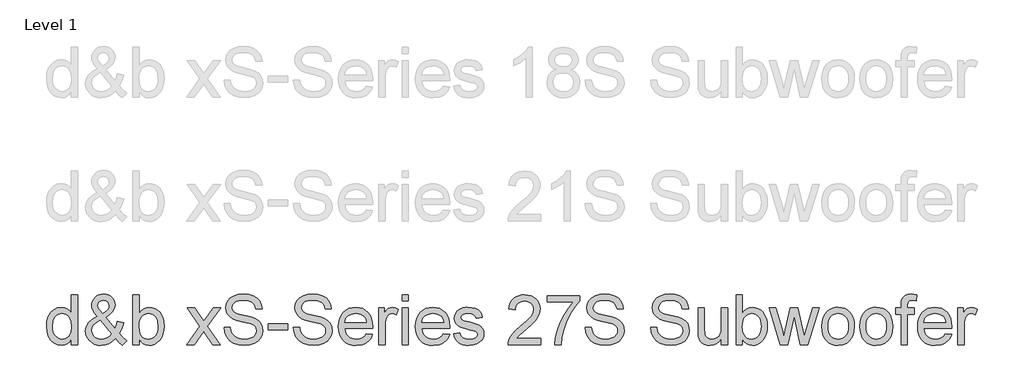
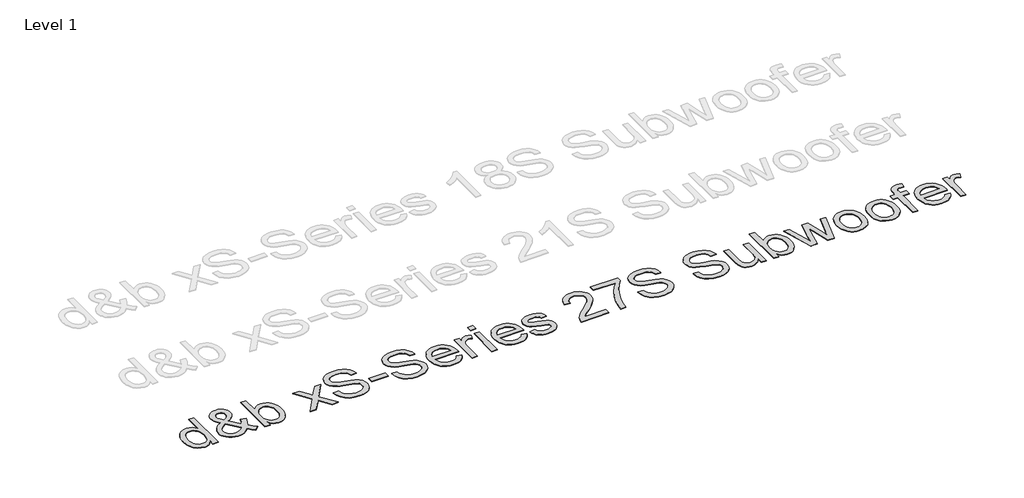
# One storey, part 18 of 55: 1 proxy.
"""IFC4 building model written with IfcOpenShell, lengths in millimetres."""

import ifcopenshell
import ifcopenshell.guid

model = None  # the IFC model being written
_history = None  # IfcOwnerHistory: only IFC2X3 demands one
_inside = {}  # id of a spatial element -> (the spatial element, [elements in it])
_under = {}  # id of a project, library or spatial element -> (it, [spatial elements below it])
_declared = {}  # id of a project -> (the project, [libraries it declares])
_typed = {}  # id of a type object -> (the type object, [elements of that type])
_made_of = {}  # id of a material, layer set ... -> (it, [elements and type objects made of it])


def new_model(schema):
    """Start an empty IFC model of exactly this schema.

    Asked for "IFC4X3", IfcOpenShell would pick the latest addendum, in which some entities
    have other attributes; the version numbers below select the first issue.
    IFC2X3 requires an IfcOwnerHistory on every rooted entity: one is made here for all.
    """
    global model, _history
    if schema == "IFC4X3":
        model = ifcopenshell.file(schema_version=(4, 3, 0, 0))
    else:
        model = ifcopenshell.file(schema=schema)
    _inside.clear()
    _under.clear()
    _declared.clear()
    _typed.clear()
    _made_of.clear()
    _history = None
    if model.schema == "IFC2X3":
        org = make("IfcOrganization", Name="unknown")
        user = make(
            "IfcPersonAndOrganization",
            ThePerson=make("IfcPerson", FamilyName="unknown"),
            TheOrganization=org,
        )
        app = make(
            "IfcApplication",
            ApplicationDeveloper=org,
            Version="unknown",
            ApplicationFullName="unknown",
            ApplicationIdentifier="unknown",
        )
        _history = make(
            "IfcOwnerHistory",
            OwningUser=user,
            OwningApplication=app,
            ChangeAction="ADDED",
            CreationDate=0,
        )
    return model


def make(cls, **values):
    """One entity of the class cls with the attributes given. An attribute that is None is left unset."""
    return model.create_entity(
        cls, **{name: value for name, value in values.items() if value is not None}
    )


def rooted(cls, **values):
    """An entity with a GlobalId (a new one), such as an element, a storey or a relation."""
    return make(cls, GlobalId=ifcopenshell.guid.new(), OwnerHistory=_history, **values)


def si_unit(unit_type, name, prefix=None):
    """IfcSIUnit, for example si_unit("LENGTHUNIT", "METRE", prefix="MILLI")."""
    return make("IfcSIUnit", UnitType=unit_type, Prefix=prefix, Name=name)


def assignment(units):
    """IfcUnitAssignment: the units of a project."""
    return None if units is None else make("IfcUnitAssignment", Units=units)


def point(xyz):
    """IfcCartesianPoint."""
    return None if xyz is None else make("IfcCartesianPoint", Coordinates=xyz)


def direction(xyz):
    """IfcDirection."""
    return None if xyz is None else make("IfcDirection", DirectionRatios=xyz)


def frame(location, z_axis=None, x_axis=None):
    """IfcAxis2Placement3D, a coordinate frame: its origin and axes. An axis left out is left unset."""
    return make(
        "IfcAxis2Placement3D",
        Location=point(location),
        Axis=direction(z_axis),
        RefDirection=direction(x_axis),
    )


def origin():
    """The frame at (0, 0, 0) with its axes left unset."""
    return frame((0.0, 0.0, 0.0))


def origin_with_axes():
    """The frame at (0, 0, 0) with the z axis (0, 0, 1) and the x axis (1, 0, 0) written out."""
    return frame((0.0, 0.0, 0.0), z_axis=(0.0, 0.0, 1.0), x_axis=(1.0, 0.0, 0.0))


def place(relative_to, where):
    """IfcLocalPlacement: puts the frame where relative to a parent placement (None: the world)."""
    return make(
        "IfcLocalPlacement", PlacementRelTo=relative_to, RelativePlacement=where
    )


def context(
    kind, dimensions, precision=None, world=None, true_north=None, identifier=None
):
    """IfcGeometricRepresentationContext, for example the 3D "Model" context."""
    return make(
        "IfcGeometricRepresentationContext",
        ContextIdentifier=identifier,
        ContextType=kind,
        CoordinateSpaceDimension=dimensions,
        Precision=precision,
        WorldCoordinateSystem=world,
        TrueNorth=true_north,
    )


def project(units=None, contexts=None):
    """IfcProject with its units and contexts."""
    return rooted(
        "IfcProject",
        Name="project",
        RepresentationContexts=contexts,
        UnitsInContext=assignment(units),
    )


def spatial(cls, under=None, at=None, **own):
    """A site, building, storey or space (cls), placed at a placement, below another one or the project."""
    s = rooted(cls, ObjectPlacement=at, **own)
    if under is not None:
        _under.setdefault(under.id(), (under, []))[1].append(s)
    return s


def polyline(points):
    """IfcPolyline through the points."""
    return make("IfcPolyline", Points=[point(p) for p in points])


def outline(outer, holes=None, kind="AREA"):
    """IfcArbitraryClosedProfileDef: a profile drawn as a closed curve; with holes, ...WithVoids."""
    if holes is None:
        return make("IfcArbitraryClosedProfileDef", ProfileType=kind, OuterCurve=outer)
    return make(
        "IfcArbitraryProfileDefWithVoids",
        ProfileType=kind,
        OuterCurve=outer,
        InnerCurves=holes,
    )


def extrude(swept, where, along, depth):
    """IfcExtrudedAreaSolid: the profile swept, set in the frame where, extruded along a direction by depth."""
    return make(
        "IfcExtrudedAreaSolid",
        SweptArea=swept,
        Position=where,
        ExtrudedDirection=direction(along),
        Depth=depth,
    )


def shape(context_of_items, identifier, shape_type, items):
    """IfcShapeRepresentation: the items that make up one representation, for example the "Body"."""
    return make(
        "IfcShapeRepresentation",
        ContextOfItems=context_of_items,
        RepresentationIdentifier=identifier,
        RepresentationType=shape_type,
        Items=items,
    )


def made_of(thing, what):
    """Note that an element or type object is made of a material, layer set ...; save() writes the relation."""
    if what is not None:
        _made_of.setdefault(what.id(), (what, []))[1].append(thing)
    return thing


def element(
    cls,
    number,
    at=None,
    inside=None,
    cuts=None,
    type_object=None,
    material=None,
    context=None,
    identifier="Body",
    shape_type=None,
    held_by="IfcProductDefinitionShape",
    body=None,
    shapes=None,
    **own,
):
    """One element of the class cls, such as IfcWall. Its Tag is "e" and its number.

    at: its placement. inside: the storey or other place that contains it. cuts: it is an
    opening in that element (IfcRelVoidsElement). A single representation is given by context,
    identifier, shape_type and body (its items); several are given by shapes. held_by: the class
    of the entity that holds the representations. save() writes the other relations.
    """
    e = rooted(cls, Tag="e%d" % number, ObjectPlacement=at, **own)
    if body is not None:
        shapes = [shape(context, identifier, shape_type, body)]
    if shapes is not None:
        e.Representation = make(held_by, Representations=shapes)
    if inside is not None:
        _inside.setdefault(inside.id(), (inside, []))[1].append(e)
    if cuts is not None:
        rooted(
            "IfcRelVoidsElement", RelatingBuildingElement=cuts, RelatedOpeningElement=e
        )
    if type_object is not None:
        _typed.setdefault(type_object.id(), (type_object, []))[1].append(e)
    return made_of(e, material)


def aggregate(whole, parts):
    """IfcRelAggregates: a whole, such as a stair, and the parts it consists of."""
    return rooted("IfcRelAggregates", RelatingObject=whole, RelatedObjects=parts)


def save(model, path):
    """Write the relations noted so far, then the file.

    IfcRelAggregates (storeys below a building ...), IfcRelContainedInSpatialStructure (elements
    in a storey), IfcRelDefinesByType, IfcRelAssociatesMaterial and IfcRelDeclares: one each for
    every whole, place, type object, material and project.
    """
    for whole, parts in _under.values():
        aggregate(whole, parts)
    for where, things in _inside.values():
        rooted(
            "IfcRelContainedInSpatialStructure",
            RelatedElements=things,
            RelatingStructure=where,
        )
    for kind, things in _typed.values():
        rooted("IfcRelDefinesByType", RelatedObjects=things, RelatingType=kind)
    for what, things in _made_of.values():
        rooted("IfcRelAssociatesMaterial", RelatedObjects=things, RelatingMaterial=what)
    for by, libraries in _declared.values():
        rooted("IfcRelDeclares", RelatingContext=by, RelatedDefinitions=libraries)
    model.write(path)


model = new_model("IFC4")

# Units and contexts
model_context = context("Model", 3, world=origin())
ifc_project = project(units=[si_unit("LENGTHUNIT", "METRE", prefix="MILLI")], contexts=[model_context])

# Site, building, storey
site = spatial("IfcSite", under=ifc_project)
building = spatial("IfcBuilding", under=site)
storey = spatial("IfcBuildingStorey", under=building, Name="Level 1", Elevation=0.0)

# Proxy
placement = place(None, origin())
element("IfcBuildingElementProxy", 1, Name="400mm Arial", ObjectType="400mm Arial", at=placement, inside=storey, context=model_context, shape_type="SweptSolid", body=[
    extrude(outline(polyline([(-20879.8211974, -17148.6945164), (-20879.8211974, -17101.3113154), (-20894.8491769, -17124.7883181), (-20913.0532043, -17141.5576057), (-20934.4332796, -17151.6191783), (-20958.9894028, -17154.9730358), (-20991.4611202, -17150.1169935), (-21021.1859854, -17135.5488665), (-21046.3491139, -17112.2864616), (-21065.1356211, -17081.3475858), (-21076.8342686, -17043.9830379), (-21080.7338177, -17001.4436165), (-21077.1408369, -16959.4314926), (-21066.3618945, -16921.4905962), (-21048.4092531, -16889.7791682), (-21023.2951755, -16866.4554497), (-20992.9203855, -16852.1080519), (-20959.1856065, -16847.325586), (-20934.6110892, -16850.7468885), (-20912.8815261, -16861.0107962), (-20894.4629008, -16876.7438829), (-20879.8211974, -16896.5727224), (-20879.8211974, -16746.8692758), (-20829.5930424, -16746.8692758), (-20829.5930424, -17148.6945164), (-20879.8211974, -17148.6945164)]), holes=[polyline([(-21030.5056627, -17001.2474128), (-21029.089317, -17025.6042665), (-21024.8402799, -17046.6808392), (-21017.7585515, -17064.4771307), (-21007.8441318, -17078.9931411), (-20983.1469871, -17098.3069458), (-20969.2717046, -17103.135397), (-20954.3786151, -17104.7448807), (-20939.415015, -17103.2089734), (-20925.6225058, -17098.6012514), (-20901.5507606, -17080.1703635), (-20892.0440767, -17066.2613584), (-20885.2535882, -17049.1088603), (-20879.8211974, -17005.0733855), (-20885.3516901, -16956.9298951), (-20892.2648059, -16938.3947739), (-20901.9431681, -16923.5507354), (-20913.6448812, -16912.1770504), (-20926.6280499, -16904.0529896), (-20940.8926743, -16899.1785532), (-20956.4387543, -16897.5537411), (-20971.6261493, -16899.1141738), (-20985.5014319, -16903.7954722), (-20998.064602, -16911.5976362), (-21009.3156597, -16922.5206658), (-21018.586286, -16936.8036843), (-21025.2081619, -16954.6858149), (-21030.5056627, -17001.2474128)])]), origin_with_axes(), (0.0, 0.0, 1.0), 5.0),
    extrude(outline(polyline([(-20523.809528, -17099.0549725), (-20549.3405384, -17123.5191252), (-20577.0788409, -17140.99352), (-20607.0734862, -17151.4781569), (-20639.3735254, -17154.9730358), (-20668.6814577, -17152.3855991), (-20694.8010793, -17144.623289), (-20717.7323904, -17131.6861055), (-20737.4753908, -17113.5740486), (-20750.308341, -17096.2038871), (-20759.4747341, -17077.8404442), (-20764.9745699, -17058.4837198), (-20766.8078485, -17038.1337141), (-20760.9094739, -17002.9396699), (-20743.2143499, -16971.3263438), (-20713.796053, -16943.3182613), (-20672.7281596, -16918.9399477), (-20694.6416638, -16890.5885086), (-20707.7995765, -16868.1231814), (-20714.3846642, -16848.9442668), (-20716.5796934, -16830.4520651), (-20714.8506481, -16812.8979626), (-20709.6635119, -16796.5333452), (-20701.018285, -16781.3582129), (-20688.9149674, -16767.3725657), (-20674.1935562, -16755.6555241), (-20657.6940487, -16747.2862088), (-20639.4164449, -16742.2646195), (-20619.3607448, -16740.5907564), (-20600.212487, -16742.1910431), (-20582.8913764, -16746.9919032), (-20567.397413, -16754.9933366), (-20553.7305969, -16766.1953433), (-20542.5715097, -16779.6414302), (-20534.6007332, -16794.3751041), (-20529.8182672, -16810.396365), (-20528.2241119, -16827.7052129), (-20532.9452642, -16855.68877), (-20547.108721, -16881.563137), (-20570.7144823, -16905.3283139), (-20603.7625482, -16926.9843007), (-20531.069066, -17017.5323224), (-20518.6837055, -16991.6579554), (-20509.3885538, -16961.9085647), (-20459.1603987, -16972.7978718), (-20474.6114425, -17019.3226815), (-20494.6732739, -17055.4977443), (-20466.1256311, -17088.8033276), (-20434.0463211, -17116.3209009), (-20471.7174374, -17154.9730358), (-20497.3465498, -17131.52669), (-20523.809528, -17099.0549725)]), holes=[polyline([(-20557.4584678, -17062.8553842), (-20647.1235727, -16950.9211558), (-20681.3733865, -16972.7733463), (-20702.305872, -16993.0068561), (-20713.0112381, -17012.3329235), (-20716.5796934, -17031.4627873), (-20711.6991256, -17055.1543878), (-20697.0574222, -17079.7289051), (-20686.2784798, -17090.6733944), (-20673.4639236, -17098.4908868), (-20658.6137537, -17103.1813823), (-20641.7279702, -17104.7448807), (-20619.0051256, -17101.8263502), (-20595.5710425, -17093.0707588), (-20574.1480476, -17079.6798541), (-20557.4584678, -17062.8553842)]), polyline([(-20629.1709314, -16895.2973981), (-20602.9041569, -16878.6323438), (-20587.8700461, -16864.1500559), (-20580.8067117, -16850.0601755), (-20578.452267, -16834.5723435), (-20581.5547385, -16817.0243723), (-20590.862153, -16803.0325938), (-20604.829406, -16793.8723321), (-20621.9113933, -16790.8189115), (-20639.3612626, -16793.8478066), (-20653.6473468, -16802.9344919), (-20663.1754905, -16816.3867102), (-20666.3515384, -16832.5122043), (-20662.0350563, -16850.9063041), (-20648.9875082, -16871.360543), (-20629.1709314, -16895.2973981)])]), origin_with_axes(), (0.0, 0.0, 1.0), 5.0),
    extrude(outline(polyline([(-20333.590011, -17148.6945164), (-20383.8181661, -17148.6945164), (-20383.8181661, -16746.8692758), (-20333.590011, -16746.8692758), (-20333.590011, -16895.8860093), (-20317.0721094, -16874.6408241), (-20298.4204923, -16859.4656918), (-20277.6351595, -16850.3606124), (-20254.7161112, -16847.325586), (-20228.8417442, -16850.0601755), (-20204.3898543, -16858.263944), (-20182.758393, -16871.4218567), (-20165.3453119, -16889.0188788), (-20151.6968898, -16910.883332), (-20141.3594058, -16936.8435381), (-20134.8478945, -16965.8203766), (-20132.6773907, -16996.734727), (-20134.9245365, -17032.4070178), (-20141.6659741, -17063.7873519), (-20152.9017034, -17090.8757295), (-20168.6317244, -17113.6721505), (-20187.5132678, -17131.7412878), (-20208.2035643, -17144.6478145), (-20230.702614, -17152.3917305), (-20255.0104168, -17154.9730358), (-20278.6836232, -17151.6437038), (-20299.671291, -17141.6557076), (-20317.9734203, -17125.0090473), (-20333.590011, -17101.7037229), (-20333.590011, -17148.6945164)]), holes=[polyline([(-20333.590011, -16999.0891717), (-20330.1564457, -17040.9786682), (-20319.8557498, -17069.3301073), (-20307.6849872, -17084.8240707), (-20293.5399244, -17095.8911874), (-20277.4205617, -17102.5314574), (-20259.3268989, -17104.7448807), (-20244.3050508, -17103.1139372), (-20230.3377977, -17098.2211067), (-20217.4251396, -17090.0663891), (-20205.5670767, -17078.6497845), (-20195.6526569, -17064.0019498), (-20188.5709285, -17046.1535416), (-20184.3218914, -17025.1045601), (-20182.9055458, -17000.8550053), (-20188.3379366, -16954.8942814), (-20195.1284251, -16937.1010555), (-20204.6351089, -16922.7659205), (-20216.0670419, -16911.735592), (-20228.6332778, -16903.8567859), (-20242.3338164, -16899.1295023), (-20257.1686579, -16897.5537411), (-20272.190506, -16899.1846846), (-20286.1577591, -16904.0775151), (-20299.0704171, -16912.2322327), (-20310.9284801, -16923.6488372), (-20320.8428999, -16938.1495192), (-20327.9246283, -16955.556469), (-20332.1736653, -16975.8696865), (-20333.590011, -16999.0891717)])]), origin_with_axes(), (0.0, 0.0, 1.0), 5.0),
    extrude(outline(polyline([(-19950.6003285, -17148.6945164), (-19843.2768878, -17000.2663941), (-19944.3218092, -16853.6041054), (-19884.0872638, -16853.6041054), (-19835.3306367, -16924.3355503), (-19812.4729021, -16957.5920827), (-19792.6563253, -16930.3197641), (-19737.1306695, -16853.6041054), (-19676.6999204, -16853.6041054), (-19782.8461387, -17000.364496), (-19680.623995, -17148.6945164), (-19740.9566422, -17148.6945164), (-19802.5646137, -17059.4218189), (-19813.7482263, -17043.0388074), (-19890.1695795, -17148.6945164), (-19950.6003285, -17148.6945164)])), origin_with_axes(), (0.0, 0.0, 1.0), 5.0),
    extrude(outline(polyline([(-19649.2313981, -17010.56709), (-19599.003243, -17010.56709), (-19593.2397584, -17038.4402825), (-19582.8164352, -17060.844296), (-19566.556051, -17078.6252591), (-19543.2813835, -17092.6293004), (-19514.8318425, -17101.7159856), (-19483.0468381, -17104.7448807), (-19455.063281, -17102.4517496), (-19430.5623402, -17095.5723563), (-19410.7089752, -17084.6830493), (-19396.6681457, -17070.3601769), (-19388.3172244, -17053.9158517), (-19385.533584, -17036.6621862), (-19387.6182486, -17019.849979), (-19393.8722425, -17005.3186402), (-19406.5764341, -16992.9210169), (-19428.0116917, -16982.5099565), (-19501.1466323, -16963.3310418), (-19549.1552327, -16950.639113), (-19579.8733793, -16938.5603208), (-19604.8770922, -16921.6622745), (-19622.5967416, -16901.1835101), (-19633.1549549, -16877.565486), (-19636.6743593, -16851.2496606), (-19632.3210891, -16821.8313637), (-19619.2612782, -16794.3996296), (-19597.8382834, -16771.1494875), (-19568.395461, -16754.2759667), (-19533.054264, -16744.012059), (-19493.9361452, -16740.5907564), (-19451.5561394, -16744.1714745), (-19414.4736342, -16754.9136288), (-19384.013005, -16772.59649), (-19361.4986269, -16796.999329), (-19347.249331, -16826.6015669), (-19341.5839483, -16859.8826247), (-19391.8121033, -16859.8826247), (-19401.0336787, -16829.9125049), (-19409.3968627, -16818.0544419), (-19420.2616443, -16808.2810436), (-19450.3053406, -16795.1844445), (-19491.9741079, -16790.8189115), (-19534.6238939, -16795.1353936), (-19550.9271976, -16800.5309962), (-19563.8827752, -16808.0848398), (-19580.805347, -16827.1411272), (-19586.4462043, -16849.7781326), (-19582.4485532, -16869.0796746), (-19570.4556002, -16884.6042948), (-19542.1041611, -16898.4857088), (-19488.4424407, -16912.6614283), (-19433.0639377, -16926.1259093), (-19399.5621507, -16937.8736077), (-19370.9286687, -16956.0960292), (-19350.9526764, -16978.5858819), (-19339.2172408, -17005.097911), (-19335.3054289, -17035.3868619), (-19339.805852, -17066.3502632), (-19353.3071212, -17095.4742545), (-19375.2574136, -17120.5392811), (-19405.1049061, -17139.3257883), (-19440.9979261, -17151.0612239), (-19481.0848008, -17154.9730358), (-19530.2951491, -17150.7546556), (-19570.7989567, -17138.099515), (-19603.0622077, -17116.958563), (-19627.5508858, -17087.2827487), (-19643.2717098, -17051.1322113), (-19649.2313981, -17010.56709)])), origin_with_axes(), (0.0, 0.0, 1.0), 5.0),
    extrude(outline(polyline([(-19291.3557932, -17029.4026481), (-19291.3557932, -16979.174493), (-19134.3928086, -16979.174493), (-19134.3928086, -17029.4026481), (-19291.3557932, -17029.4026481)])), origin_with_axes(), (0.0, 0.0, 1.0), 5.0),
    extrude(outline(polyline([(-19090.4431729, -17010.56709), (-19040.2150178, -17010.56709), (-19034.4515332, -17038.4402825), (-19024.02821, -17060.844296), (-19007.7678258, -17078.6252591), (-18984.4931583, -17092.6293004), (-18956.0436173, -17101.7159856), (-18924.2586129, -17104.7448807), (-18896.2750558, -17102.4517496), (-18871.774115, -17095.5723563), (-18851.9207499, -17084.6830493), (-18837.8799205, -17070.3601769), (-18829.5289992, -17053.9158517), (-18826.7453587, -17036.6621862), (-18828.8300234, -17019.849979), (-18835.0840173, -17005.3186402), (-18847.7882089, -16992.9210169), (-18869.2234665, -16982.5099565), (-18942.3584071, -16963.3310418), (-18990.3670075, -16950.639113), (-19021.0851541, -16938.5603208), (-19046.088867, -16921.6622745), (-19063.8085164, -16901.1835101), (-19074.3667297, -16877.565486), (-19077.8861341, -16851.2496606), (-19073.5328638, -16821.8313637), (-19060.473053, -16794.3996296), (-19039.0500582, -16771.1494875), (-19009.6072358, -16754.2759667), (-18974.2660388, -16744.012059), (-18935.14792, -16740.5907564), (-18892.7679141, -16744.1714745), (-18855.685409, -16754.9136288), (-18825.2247798, -16772.59649), (-18802.7104017, -16796.999329), (-18788.4611058, -16826.6015669), (-18782.7957231, -16859.8826247), (-18833.0238781, -16859.8826247), (-18842.2454535, -16829.9125049), (-18850.6086375, -16818.0544419), (-18861.4734191, -16808.2810436), (-18891.5171154, -16795.1844445), (-18933.1858827, -16790.8189115), (-18975.8356687, -16795.1353936), (-18992.1389724, -16800.5309962), (-19005.09455, -16808.0848398), (-19022.0171218, -16827.1411272), (-19027.657979, -16849.7781326), (-19023.660328, -16869.0796746), (-19011.667375, -16884.6042948), (-18983.3159359, -16898.4857088), (-18929.6542155, -16912.6614283), (-18874.2757125, -16926.1259093), (-18840.7739255, -16937.8736077), (-18812.1404435, -16956.0960292), (-18792.1644512, -16978.5858819), (-18780.4290156, -17005.097911), (-18776.5172037, -17035.3868619), (-18781.0176267, -17066.3502632), (-18794.518896, -17095.4742545), (-18816.4691883, -17120.5392811), (-18846.3166809, -17139.3257883), (-18882.2097009, -17151.0612239), (-18922.2965756, -17154.9730358), (-18971.5069238, -17150.7546556), (-19012.0107315, -17138.099515), (-19044.2739825, -17116.958563), (-19068.7626606, -17087.2827487), (-19084.4834846, -17051.1322113), (-19090.4431729, -17010.56709)])), origin_with_axes(), (0.0, 0.0, 1.0), 5.0),
    extrude(outline(polyline([(-18500.850962, -17060.795245), (-18451.6038255, -17067.0737644), (-18459.1546035, -17086.7983707), (-18469.3480004, -17104.180795), (-18482.1840164, -17119.2210372), (-18497.6626513, -17131.9190974), (-18515.6244897, -17142.0051955), (-18535.9101161, -17149.2095512), (-18583.4527326, -17154.9730358), (-18614.618469, -17152.4867667), (-18642.3874282, -17145.0279592), (-18666.7596104, -17132.5966135), (-18687.7350155, -17115.1927294), (-18704.602405, -17093.300685), (-18716.6505403, -17067.4048582), (-18723.8794215, -17037.5052491), (-18726.2890486, -17003.6018575), (-18723.8548961, -16968.5488348), (-18716.5524385, -16937.6528785), (-18704.3816758, -16910.9139888), (-18687.342608, -16888.3321657), (-18666.4223852, -16870.3917871), (-18642.6081574, -16857.5772309), (-18615.8999246, -16849.8884972), (-18586.2976867, -16847.325586), (-18557.6488763, -16849.8823658), (-18531.7407868, -16857.5527054), (-18508.5734182, -16870.3366048), (-18488.1467704, -16888.2340638), (-18471.472519, -16910.766836), (-18459.5623394, -16937.4566748), (-18452.4162316, -16968.3035801), (-18450.0341957, -17003.3075519), (-18450.3285013, -17016.8456094), (-18676.0608935, -17016.8456094), (-18673.1515601, -17036.8890467), (-18667.3666157, -17054.4431493), (-18658.7060604, -17069.507917), (-18647.1698942, -17082.0833498), (-18633.3957791, -17091.9977696), (-18618.0213774, -17099.079498), (-18582.4717139, -17104.7448807), (-18555.7389556, -17102.1206558), (-18533.2245775, -17094.2479811), (-18514.9285796, -17080.6363473), (-18500.850962, -17060.795245)]), holes=[polyline([(-18676.0608935, -16966.6174543), (-18500.2623508, -16966.6174543), (-18507.0559049, -16940.0808997), (-18520.3732332, -16921.0981887), (-18534.0707061, -16910.7974929), (-18549.65664, -16903.439853), (-18567.1310348, -16899.025269), (-18586.4938904, -16897.5537411), (-18620.3512967, -16902.2503679), (-18648.3471166, -16916.3402483), (-18667.8080741, -16938.3028034), (-18676.0608935, -16966.6174543)])]), origin_with_axes(), (0.0, 0.0, 1.0), 5.0),
    extrude(outline(polyline([(-18399.8060406, -17148.6945164), (-18399.8060406, -16853.6041054), (-18355.8564049, -16853.6041054), (-18355.8564049, -16897.2594355), (-18339.6205462, -16871.9491542), (-18324.6600117, -16857.0376707), (-18309.6504263, -16849.7536071), (-18293.2674148, -16847.325586), (-18268.2514391, -16851.2006097), (-18242.843056, -16862.8256807), (-18259.618475, -16907.8544369), (-18277.2768108, -16900.128915), (-18294.9351465, -16897.5537411), (-18309.9324692, -16900.0308132), (-18323.3356365, -16907.4620295), (-18334.1636299, -16919.2833042), (-18341.4354307, -16934.9305518), (-18347.5422718, -16962.9876853), (-18349.5778855, -16993.5954673), (-18349.5778855, -17148.6945164), (-18399.8060406, -17148.6945164)])), origin_with_axes(), (0.0, 0.0, 1.0), 5.0),
    extrude(outline(polyline([(-18211.4504591, -16797.0974309), (-18211.4504591, -16746.8692758), (-18161.222304, -16746.8692758), (-18161.222304, -16797.0974309), (-18211.4504591, -16797.0974309)])), origin_with_axes(), (0.0, 0.0, 1.0), 5.0),
    extrude(outline(polyline([(-18211.4504591, -17148.6945164), (-18211.4504591, -16853.6041054), (-18161.222304, -16853.6041054), (-18161.222304, -17148.6945164), (-18211.4504591, -17148.6945164)])), origin_with_axes(), (0.0, 0.0, 1.0), 5.0),
    extrude(outline(polyline([(-17879.2775429, -17060.795245), (-17830.0304065, -17067.0737644), (-17837.5811844, -17086.7983707), (-17847.7745814, -17104.180795), (-17860.6105973, -17119.2210372), (-17876.0892323, -17131.9190974), (-17894.0510707, -17142.0051955), (-17914.336697, -17149.2095512), (-17961.8793136, -17154.9730358), (-17993.0450499, -17152.4867667), (-18020.8140092, -17145.0279592), (-18045.1861914, -17132.5966135), (-18066.1615965, -17115.1927294), (-18083.0289859, -17093.300685), (-18095.0771213, -17067.4048582), (-18102.3060025, -17037.5052491), (-18104.7156295, -17003.6018575), (-18102.281477, -16968.5488348), (-18094.9790194, -16937.6528785), (-18082.8082567, -16910.9139888), (-18065.769189, -16888.3321657), (-18044.8489662, -16870.3917871), (-18021.0347384, -16857.5772309), (-17994.3265055, -16849.8884972), (-17964.7242676, -16847.325586), (-17936.0754573, -16849.8823658), (-17910.1673678, -16857.5527054), (-17886.9999991, -16870.3366048), (-17866.5733513, -16888.2340638), (-17849.8990999, -16910.766836), (-17837.9889203, -16937.4566748), (-17830.8428126, -16968.3035801), (-17828.4607766, -17003.3075519), (-17828.7550822, -17016.8456094), (-18054.4874745, -17016.8456094), (-18051.578141, -17036.8890467), (-18045.7931967, -17054.4431493), (-18037.1326413, -17069.507917), (-18025.5964751, -17082.0833498), (-18011.8223601, -17091.9977696), (-17996.4479584, -17099.079498), (-17960.8982949, -17104.7448807), (-17934.1655366, -17102.1206558), (-17911.6511585, -17094.2479811), (-17893.3551606, -17080.6363473), (-17879.2775429, -17060.795245)]), holes=[polyline([(-18054.4874745, -16966.6174543), (-17878.6889317, -16966.6174543), (-17885.4824859, -16940.0808997), (-17898.7998141, -16921.0981887), (-17912.4972871, -16910.7974929), (-17928.0832209, -16903.439853), (-17945.5576157, -16899.025269), (-17964.9204714, -16897.5537411), (-17998.7778777, -16902.2503679), (-18026.7736975, -16916.3402483), (-18046.234655, -16938.3028034), (-18054.4874745, -16966.6174543)])]), origin_with_axes(), (0.0, 0.0, 1.0), 5.0),
    extrude(outline(polyline([(-17797.0681797, -17060.795245), (-17746.8400246, -17054.5167257), (-17738.918299, -17076.0010342), (-17723.5898825, -17091.7954345), (-17700.7566734, -17101.5075192), (-17670.3205696, -17104.7448807), (-17640.2523479, -17101.7772993), (-17619.1113959, -17092.874555), (-17606.6034081, -17079.9741597), (-17602.4340788, -17065.0136253), (-17606.6279335, -17052.2113318), (-17619.2094978, -17042.4501962), (-17670.9091808, -17028.1273239), (-17746.545719, -17003.5528066), (-17765.6878455, -16991.2042343), (-17779.5569967, -16974.858011), (-17787.9814944, -16955.556469), (-17790.7896603, -16934.3419406), (-17788.5333174, -16914.880983), (-17781.7642887, -16896.9160789), (-17771.0957109, -16881.1584668), (-17757.1407205, -16868.3193852), (-17725.2085633, -16853.4569526), (-17704.3251287, -16848.8584276), (-17681.9946916, -16847.325586), (-17649.302245, -16849.7903953), (-17620.8772295, -16857.1848234), (-17598.0194949, -16868.785369), (-17582.0288908, -16883.8685308), (-17571.4338893, -16903.5502176), (-17564.7629625, -16928.946338), (-17614.9911176, -16935.2248574), (-17621.3309506, -16919.4181943), (-17633.8757267, -16907.5110804), (-17652.748073, -16900.0430759), (-17678.070617, -16897.5537411), (-17706.9125654, -16899.9327113), (-17726.140531, -16907.069622), (-17736.9562617, -16917.3703179), (-17740.5615053, -16929.2406436), (-17734.5772915, -16943.8578215), (-17715.8398352, -16954.9433323), (-17672.5769125, -16965.6364356), (-17598.8533607, -16989.2789852), (-17579.3801404, -17000.5852252), (-17564.6158097, -17016.0607944), (-17555.3083952, -17035.7547439), (-17552.2059237, -17059.7161245), (-17555.8479555, -17084.4868455), (-17566.7740507, -17107.7860386), (-17584.5672766, -17127.7865564), (-17608.8107, -17142.6612517), (-17638.0941069, -17151.8950898), (-17671.0072827, -17154.9730358), (-17698.040478, -17153.4892451), (-17721.6523707, -17149.037873), (-17741.8429609, -17141.6189194), (-17758.6122485, -17131.2323844), (-17772.3097214, -17117.9273189), (-17783.2848676, -17101.7527738), (-17791.5376871, -17082.7087492), (-17797.0681797, -17060.795245)])), origin_with_axes(), (0.0, 0.0, 1.0), 5.0),
    extrude(outline(polyline([(-17093.8740087, -17098.4663614), (-17093.8740087, -17148.6945164), (-17357.5718228, -17148.6945164), (-17356.4681768, -17131.0116552), (-17352.1762202, -17114.0645579), (-17339.778597, -17087.0007058), (-17321.6174891, -17060.7461941), (-17295.3629774, -17033.2654091), (-17258.6851425, -17002.522737), (-17204.4961246, -16954.3792466), (-17172.0121444, -16918.8418458), (-17155.7885485, -16889.9998974), (-17150.3806831, -16861.9427639), (-17155.4942429, -16836.7918982), (-17170.8349221, -16815.8839381), (-17194.4161579, -16801.7940577), (-17224.2513878, -16797.0974309), (-17255.582671, -16801.6836931), (-17279.9241964, -16815.4424797), (-17295.6327576, -16837.2946702), (-17301.0651483, -16866.1611441), (-17351.2933034, -16859.8826247), (-17346.9737557, -16833.9530755), (-17339.1164094, -16811.2976759), (-17327.7212646, -16791.9164261), (-17312.7883213, -16775.8093261), (-17294.6609359, -16763.1480541), (-17273.6824652, -16754.1042884), (-17249.8529089, -16748.678029), (-17223.1722672, -16746.8692758), (-17196.2525022, -16748.8803641), (-17172.2941873, -16754.9136288), (-17151.2973224, -16764.96907), (-17133.2619076, -16779.0466877), (-17118.7765541, -16796.1041495), (-17108.4298729, -16815.0991232), (-17102.2218643, -16836.0316087), (-17100.152528, -16858.9016061), (-17102.3843455, -16882.9243004), (-17109.0797978, -16906.5300617), (-17120.9623862, -16930.5404933), (-17138.7556121, -16955.7771982), (-17167.1193139, -16985.9067336), (-17210.7133303, -17024.5956567), (-17268.495329, -17072.9108254), (-17291.1568599, -17098.4663614), (-17093.8740087, -17098.4663614)])), origin_with_axes(), (0.0, 0.0, 1.0), 5.0),
    extrude(outline(polyline([(-17043.6458536, -16803.3759503), (-17043.6458536, -16753.1477952), (-16779.9480394, -16753.1477952), (-16779.9480394, -16793.7619675), (-16817.5333166, -16841.3291095), (-16854.7507118, -16901.8211722), (-16887.5780485, -16969.7199258), (-16911.9931503, -17039.5071403), (-16923.9615778, -17091.7218581), (-16930.6325047, -17148.6945164), (-16980.8606597, -17148.6945164), (-16975.428269, -17096.921257), (-16960.8969301, -17035.3868619), (-16937.6590508, -16970.1613842), (-16906.1070383, -16907.3148767), (-16869.2697879, -16850.5016339), (-16830.1761945, -16803.3759503), (-17043.6458536, -16803.3759503)])), origin_with_axes(), (0.0, 0.0, 1.0), 5.0),
    extrude(outline(polyline([(-16735.9984038, -17010.56709), (-16685.7702487, -17010.56709), (-16680.0067641, -17038.4402825), (-16669.5834409, -17060.844296), (-16653.3230567, -17078.6252591), (-16630.0483891, -17092.6293004), (-16601.5988482, -17101.7159856), (-16569.8138438, -17104.7448807), (-16541.8302867, -17102.4517496), (-16517.3293458, -17095.5723563), (-16497.4759808, -17084.6830493), (-16483.4351513, -17070.3601769), (-16475.08423, -17053.9158517), (-16472.3005896, -17036.6621862), (-16474.3852543, -17019.849979), (-16480.6392482, -17005.3186402), (-16493.3434397, -16992.9210169), (-16514.7786973, -16982.5099565), (-16587.913638, -16963.3310418), (-16635.9222383, -16950.639113), (-16666.6403849, -16938.5603208), (-16691.6440979, -16921.6622745), (-16709.3637473, -16901.1835101), (-16719.9219606, -16877.565486), (-16723.441365, -16851.2496606), (-16719.0880947, -16821.8313637), (-16706.0282839, -16794.3996296), (-16684.605289, -16771.1494875), (-16655.1624667, -16754.2759667), (-16619.8212697, -16744.012059), (-16580.7031509, -16740.5907564), (-16538.323145, -16744.1714745), (-16501.2406399, -16754.9136288), (-16470.7800107, -16772.59649), (-16448.2656326, -16796.999329), (-16434.0163367, -16826.6015669), (-16428.3509539, -16859.8826247), (-16478.579109, -16859.8826247), (-16487.8006843, -16829.9125049), (-16496.1638684, -16818.0544419), (-16507.02865, -16808.2810436), (-16537.0723462, -16795.1844445), (-16578.7411136, -16790.8189115), (-16621.3908995, -16795.1353936), (-16637.6942033, -16800.5309962), (-16650.6497809, -16808.0848398), (-16667.5723527, -16827.1411272), (-16673.2132099, -16849.7781326), (-16669.2155589, -16869.0796746), (-16657.2226059, -16884.6042948), (-16628.8711668, -16898.4857088), (-16575.2094464, -16912.6614283), (-16519.8309434, -16926.1259093), (-16486.3291564, -16937.8736077), (-16457.6956744, -16956.0960292), (-16437.7196821, -16978.5858819), (-16425.9842464, -17005.097911), (-16422.0724345, -17035.3868619), (-16426.5728576, -17066.3502632), (-16440.0741268, -17095.4742545), (-16462.0244192, -17120.5392811), (-16491.8719118, -17139.3257883), (-16527.7649318, -17151.0612239), (-16567.8518065, -17154.9730358), (-16617.0621547, -17150.7546556), (-16657.5659624, -17138.099515), (-16689.8292134, -17116.958563), (-16714.3178915, -17087.2827487), (-16730.0387154, -17051.1322113), (-16735.9984038, -17010.56709)])), origin_with_axes(), (0.0, 0.0, 1.0), 5.0),
    extrude(outline(polyline([(-16208.6027755, -17010.56709), (-16158.3746204, -17010.56709), (-16152.6111358, -17038.4402825), (-16142.1878126, -17060.844296), (-16125.9274284, -17078.6252591), (-16102.6527609, -17092.6293004), (-16074.2032199, -17101.7159856), (-16042.4182155, -17104.7448807), (-16014.4346584, -17102.4517496), (-15989.9337175, -17095.5723563), (-15970.0803525, -17084.6830493), (-15956.0395231, -17070.3601769), (-15947.6886018, -17053.9158517), (-15944.9049613, -17036.6621862), (-15946.989626, -17019.849979), (-15953.2436199, -17005.3186402), (-15965.9478115, -16992.9210169), (-15987.383069, -16982.5099565), (-16060.5180097, -16963.3310418), (-16108.5266101, -16950.639113), (-16139.2447566, -16938.5603208), (-16164.2484696, -16921.6622745), (-16181.968119, -16901.1835101), (-16192.5263323, -16877.565486), (-16196.0457367, -16851.2496606), (-16191.6924664, -16821.8313637), (-16178.6326556, -16794.3996296), (-16157.2096607, -16771.1494875), (-16127.7668384, -16754.2759667), (-16092.4256414, -16744.012059), (-16053.3075226, -16740.5907564), (-16010.9275167, -16744.1714745), (-15973.8450116, -16754.9136288), (-15943.3843824, -16772.59649), (-15920.8700043, -16796.999329), (-15906.6207084, -16826.6015669), (-15900.9553256, -16859.8826247), (-15951.1834807, -16859.8826247), (-15960.4050561, -16829.9125049), (-15968.7682401, -16818.0544419), (-15979.6330217, -16808.2810436), (-16009.6767179, -16795.1844445), (-16051.3454853, -16790.8189115), (-16093.9952712, -16795.1353936), (-16110.298575, -16800.5309962), (-16123.2541526, -16808.0848398), (-16140.1767244, -16827.1411272), (-16145.8175816, -16849.7781326), (-16141.8199306, -16869.0796746), (-16129.8269776, -16884.6042948), (-16101.4755385, -16898.4857088), (-16047.8138181, -16912.6614283), (-15992.4353151, -16926.1259093), (-15958.9335281, -16937.8736077), (-15930.3000461, -16956.0960292), (-15910.3240538, -16978.5858819), (-15898.5886181, -17005.097911), (-15894.6768063, -17035.3868619), (-15899.1772293, -17066.3502632), (-15912.6784986, -17095.4742545), (-15934.6287909, -17120.5392811), (-15964.4762835, -17139.3257883), (-16000.3693035, -17151.0612239), (-16040.4561782, -17154.9730358), (-16089.6665264, -17150.7546556), (-16130.1703341, -17138.099515), (-16162.4335851, -17116.958563), (-16186.9222632, -17087.2827487), (-16202.6430872, -17051.1322113), (-16208.6027755, -17010.56709)])), origin_with_axes(), (0.0, 0.0, 1.0), 5.0),
    extrude(outline(polyline([(-15637.2575115, -17148.6945164), (-15637.2575115, -17097.975852), (-15655.4308821, -17122.9121199), (-15676.5963595, -17140.7237399), (-15700.7539439, -17151.4107118), (-15727.9036351, -17154.9730358), (-15752.3677878, -17152.4714382), (-15775.1396833, -17144.9666455), (-15794.2450216, -17133.684931), (-15807.7095026, -17119.852568), (-15816.7716624, -17103.0526236), (-15822.6700371, -17082.8681648), (-15825.613093, -17036.1716768), (-15825.613093, -16853.6041054), (-15775.384938, -16853.6041054), (-15775.384938, -17012.5291273), (-15772.3437801, -17063.738301), (-15765.0229284, -17080.8202883), (-15752.4781524, -17093.8065227), (-15735.5433179, -17102.0102912), (-15715.0522907, -17104.7448807), (-15693.3840412, -17101.9489776), (-15673.1137433, -17093.5612681), (-15656.399638, -17080.3543045), (-15645.3999663, -17063.1006389), (-15639.2931252, -17039.4703521), (-15637.2575115, -17007.1335247), (-15637.2575115, -16853.6041054), (-15587.0293564, -16853.6041054), (-15587.0293564, -17148.6945164), (-15637.2575115, -17148.6945164)])), origin_with_axes(), (0.0, 0.0, 1.0), 5.0),
    extrude(outline(polyline([(-15467.7374881, -17148.6945164), (-15517.9656432, -17148.6945164), (-15517.9656432, -16746.8692758), (-15467.7374881, -16746.8692758), (-15467.7374881, -16895.8860093), (-15451.2195865, -16874.6408241), (-15432.5679694, -16859.4656918), (-15411.7826367, -16850.3606124), (-15388.8635884, -16847.325586), (-15362.9892214, -16850.0601755), (-15338.5373314, -16858.263944), (-15316.9058701, -16871.4218567), (-15299.492789, -16889.0188788), (-15285.844367, -16910.883332), (-15275.5068829, -16936.8435381), (-15268.9953716, -16965.8203766), (-15266.8248678, -16996.734727), (-15269.0720137, -17032.4070178), (-15275.8134512, -17063.7873519), (-15287.0491805, -17090.8757295), (-15302.7792015, -17113.6721505), (-15321.6607449, -17131.7412878), (-15342.3510414, -17144.6478145), (-15364.8500911, -17152.3917305), (-15389.1578939, -17154.9730358), (-15412.8311003, -17151.6437038), (-15433.8187682, -17141.6557076), (-15452.1208974, -17125.0090473), (-15467.7374881, -17101.7037229), (-15467.7374881, -17148.6945164)]), holes=[polyline([(-15467.7374881, -16999.0891717), (-15464.3039228, -17040.9786682), (-15454.003227, -17069.3301073), (-15441.8324643, -17084.8240707), (-15427.6874016, -17095.8911874), (-15411.5680388, -17102.5314574), (-15393.474376, -17104.7448807), (-15378.4525279, -17103.1139372), (-15364.4852748, -17098.2211067), (-15351.5726168, -17090.0663891), (-15339.7145538, -17078.6497845), (-15329.800134, -17064.0019498), (-15322.7184056, -17046.1535416), (-15318.4693686, -17025.1045601), (-15317.0530229, -17000.8550053), (-15322.4854137, -16954.8942814), (-15329.2759022, -16937.1010555), (-15338.7825861, -16922.7659205), (-15350.2145191, -16911.735592), (-15362.7807549, -16903.8567859), (-15376.4812935, -16899.1295023), (-15391.316135, -16897.5537411), (-15406.3379831, -16899.1846846), (-15420.3052362, -16904.0775151), (-15433.2178942, -16912.2322327), (-15445.0759572, -16923.6488372), (-15454.990377, -16938.1495192), (-15462.0721054, -16955.556469), (-15466.3211424, -16975.8696865), (-15467.7374881, -16999.0891717)])]), origin_with_axes(), (0.0, 0.0, 1.0), 5.0),
    extrude(outline(polyline([(-15160.9729551, -17148.6945164), (-15251.1285694, -16853.6041054), (-15199.0364788, -16853.6041054), (-15148.0235088, -17025.7728791), (-15132.8177197, -17087.2827487), (-15120.3587828, -17028.029222), (-15079.8427124, -16853.6041054), (-15020.1967783, -16853.6041054), (-14979.6807079, -17027.5387127), (-14968.5951971, -17081.200433), (-14952.7026949, -17024.5956567), (-14901.6897249, -16853.6041054), (-14849.3033288, -16853.6041054), (-14939.7532486, -17148.6945164), (-15000.3802014, -17148.6945164), (-15039.0323364, -16975.6428259), (-15050.2159491, -16921.6867999), (-15099.9535948, -17148.6945164), (-15160.9729551, -17148.6945164)])), origin_with_axes(), (0.0, 0.0, 1.0), 5.0),
    extrude(outline(polyline([(-14827.3285109, -17001.1493109), (-14824.6123155, -16962.932503), (-14816.4637293, -16930.000933), (-14802.8827523, -16902.3546011), (-14783.8693846, -16879.9935072), (-14764.7272581, -16865.7012916), (-14743.5985688, -16855.4925663), (-14720.4833168, -16849.3673311), (-14695.381502, -16847.325586), (-14667.6707907, -16849.8118551), (-14642.6149611, -16857.2706626), (-14620.2140133, -16869.7020083), (-14600.4679472, -16887.1058924), (-14584.3516502, -16908.8937036), (-14572.8400094, -16934.4768306), (-14565.9330249, -16963.8552736), (-14563.6306968, -16997.0290325), (-14567.7019242, -17047.7722224), (-14579.9156064, -17086.3998319), (-14599.9161242, -17115.3276195), (-14627.3478583, -17136.9713435), (-14659.9299404, -17150.4726127), (-14695.381502, -17154.9730358), (-14723.4968835, -17152.4959637), (-14748.7857049, -17145.0647474), (-14771.2479664, -17132.6793869), (-14790.8836679, -17115.3398822), (-14806.8282867, -17093.3405389), (-14818.2173002, -17066.9756626), (-14825.0507082, -17036.2452532), (-14827.3285109, -17001.1493109)]), holes=[polyline([(-14777.1003558, -17001.051209), (-14775.647222, -17025.4141942), (-14771.2878203, -17046.5091609), (-14764.0221509, -17064.3361093), (-14753.8502137, -17078.8950392), (-14741.477116, -17090.2043449), (-14727.6079648, -17098.2824204), (-14712.2427601, -17103.1292656), (-14695.381502, -17104.7448807), (-14678.606083, -17103.1200686), (-14663.302192, -17098.2456322), (-14649.469829, -17090.1215714), (-14637.1089939, -17078.7478864), (-14626.9370568, -17064.0448693), (-14619.6713874, -17045.9328124), (-14615.3119857, -17024.4117157), (-14613.8588518, -16999.4815792), (-14615.3211828, -16975.8911462), (-14619.7081756, -16955.3480025), (-14627.0198302, -16937.8521479), (-14637.2561467, -16923.4035826), (-14649.662967, -16912.0942769), (-14663.486133, -16904.0162014), (-14678.7256446, -16899.1693561), (-14695.381502, -16897.5537411), (-14712.2427601, -16899.1632248), (-14727.6079648, -16903.991676), (-14741.477116, -16912.0390946), (-14753.8502137, -16923.3054807), (-14764.0221509, -16937.8214911), (-14771.2878203, -16955.6177826), (-14775.647222, -16976.6943553), (-14777.1003558, -17001.051209)])]), origin_with_axes(), (0.0, 0.0, 1.0), 5.0),
    extrude(outline(polyline([(-14519.6810611, -17001.1493109), (-14516.9648657, -16962.932503), (-14508.8162795, -16930.000933), (-14495.2353025, -16902.3546011), (-14476.2219347, -16879.9935072), (-14457.0798082, -16865.7012916), (-14435.951119, -16855.4925663), (-14412.8358669, -16849.3673311), (-14387.7340521, -16847.325586), (-14360.0233409, -16849.8118551), (-14334.9675113, -16857.2706626), (-14312.5665635, -16869.7020083), (-14292.8204974, -16887.1058924), (-14276.7042003, -16908.8937036), (-14265.1925596, -16934.4768306), (-14258.2855751, -16963.8552736), (-14255.9832469, -16997.0290325), (-14260.0544744, -17047.7722224), (-14272.2681566, -17086.3998319), (-14292.2686744, -17115.3276195), (-14319.7004085, -17136.9713435), (-14352.2824905, -17150.4726127), (-14387.7340521, -17154.9730358), (-14415.8494336, -17152.4959637), (-14441.1382551, -17145.0647474), (-14463.6005166, -17132.6793869), (-14483.2362181, -17115.3398822), (-14499.1808369, -17093.3405389), (-14510.5698503, -17066.9756626), (-14517.4032584, -17036.2452532), (-14519.6810611, -17001.1493109)]), holes=[polyline([(-14469.452906, -17001.051209), (-14467.9997721, -17025.4141942), (-14463.6403705, -17046.5091609), (-14456.3747011, -17064.3361093), (-14446.2027639, -17078.8950392), (-14433.8296661, -17090.2043449), (-14419.9605149, -17098.2824204), (-14404.5953103, -17103.1292656), (-14387.7340521, -17104.7448807), (-14370.9586332, -17103.1200686), (-14355.6547422, -17098.2456322), (-14341.8223791, -17090.1215714), (-14329.4615441, -17078.7478864), (-14319.2896069, -17064.0448693), (-14312.0239375, -17045.9328124), (-14307.6645359, -17024.4117157), (-14306.211402, -16999.4815792), (-14307.6737329, -16975.8911462), (-14312.0607257, -16955.3480025), (-14319.3723804, -16937.8521479), (-14329.6086969, -16923.4035826), (-14342.0155172, -16912.0942769), (-14355.8386832, -16904.0162014), (-14371.0781948, -16899.1693561), (-14387.7340521, -16897.5537411), (-14404.5953103, -16899.1632248), (-14419.9605149, -16903.991676), (-14433.8296661, -16912.0390946), (-14446.2027639, -16923.3054807), (-14456.3747011, -16937.8214911), (-14463.6403705, -16955.6177826), (-14467.9997721, -16976.6943553), (-14469.452906, -17001.051209)])]), origin_with_axes(), (0.0, 0.0, 1.0), 5.0),
    extrude(outline(polyline([(-14186.9195337, -17148.6945164), (-14186.9195337, -16903.8322604), (-14230.8691694, -16903.8322604), (-14230.8691694, -16853.6041054), (-14186.9195337, -16853.6041054), (-14186.9195337, -16823.8792402), (-14185.5951585, -16799.2801974), (-14181.622033, -16781.9897436), (-14171.5175408, -16765.2879011), (-14155.9193443, -16752.0686747), (-14134.0916792, -16743.460236), (-14105.2987817, -16740.5907564), (-14059.4852106, -16746.0844609), (-14066.8428505, -16793.1733563), (-14095.7829008, -16790.8189115), (-14114.8759763, -16792.9035762), (-14127.4207524, -16799.1575701), (-14134.3737221, -16811.1014722), (-14136.6913786, -16830.2558614), (-14136.6913786, -16853.6041054), (-14080.1847042, -16853.6041054), (-14080.1847042, -16903.8322604), (-14136.6913786, -16903.8322604), (-14136.6913786, -17148.6945164), (-14186.9195337, -17148.6945164)])), origin_with_axes(), (0.0, 0.0, 1.0), 5.0),
    extrude(outline(polyline([(-13829.63254, -17060.795245), (-13780.3854036, -17067.0737644), (-13787.9361815, -17086.7983707), (-13798.1295785, -17104.180795), (-13810.9655944, -17119.2210372), (-13826.4442294, -17131.9190974), (-13844.4060678, -17142.0051955), (-13864.6916941, -17149.2095512), (-13912.2343106, -17154.9730358), (-13943.400047, -17152.4867667), (-13971.1690063, -17145.0279592), (-13995.5411885, -17132.5966135), (-14016.5165935, -17115.1927294), (-14033.383983, -17093.300685), (-14045.4321184, -17067.4048582), (-14052.6609996, -17037.5052491), (-14055.0706266, -17003.6018575), (-14052.6364741, -16968.5488348), (-14045.3340165, -16937.6528785), (-14033.1632538, -16910.9139888), (-14016.1241861, -16888.3321657), (-13995.2039633, -16870.3917871), (-13971.3897355, -16857.5772309), (-13944.6815026, -16849.8884972), (-13915.0792647, -16847.325586), (-13886.4304544, -16849.8823658), (-13860.5223649, -16857.5527054), (-13837.3549962, -16870.3366048), (-13816.9283484, -16888.2340638), (-13800.254097, -16910.766836), (-13788.3439174, -16937.4566748), (-13781.1978096, -16968.3035801), (-13778.8157737, -17003.3075519), (-13779.1100793, -17016.8456094), (-14004.8424716, -17016.8456094), (-14001.9331381, -17036.8890467), (-13996.1481937, -17054.4431493), (-13987.4876384, -17069.507917), (-13975.9514722, -17082.0833498), (-13962.1773572, -17091.9977696), (-13946.8029555, -17099.079498), (-13911.253292, -17104.7448807), (-13884.5205337, -17102.1206558), (-13862.0061556, -17094.2479811), (-13843.7101577, -17080.6363473), (-13829.63254, -17060.795245)]), holes=[polyline([(-14004.8424716, -16966.6174543), (-13829.0439288, -16966.6174543), (-13835.837483, -16940.0808997), (-13849.1548112, -16921.0981887), (-13862.8522842, -16910.7974929), (-13878.438218, -16903.439853), (-13895.9126128, -16899.025269), (-13915.2754685, -16897.5537411), (-13949.1328748, -16902.2503679), (-13977.1286946, -16916.3402483), (-13996.5896521, -16938.3028034), (-14004.8424716, -16966.6174543)])]), origin_with_axes(), (0.0, 0.0, 1.0), 5.0),
    extrude(outline(polyline([(-13728.5876187, -17148.6945164), (-13728.5876187, -16853.6041054), (-13684.637983, -16853.6041054), (-13684.637983, -16897.2594355), (-13668.4021242, -16871.9491542), (-13653.4415898, -16857.0376707), (-13638.4320044, -16849.7536071), (-13622.0489929, -16847.325586), (-13597.0330172, -16851.2006097), (-13571.624634, -16862.8256807), (-13588.400053, -16907.8544369), (-13606.0583888, -16900.128915), (-13623.7167246, -16897.5537411), (-13638.7140472, -16900.0308132), (-13652.1172146, -16907.4620295), (-13662.945208, -16919.2833042), (-13670.2170088, -16934.9305518), (-13676.3238499, -16962.9876853), (-13678.3594636, -16993.5954673), (-13678.3594636, -17148.6945164), (-13728.5876187, -17148.6945164)])), origin_with_axes(), (0.0, 0.0, 1.0), 5.0),
])

save(model, "model.ifc")
